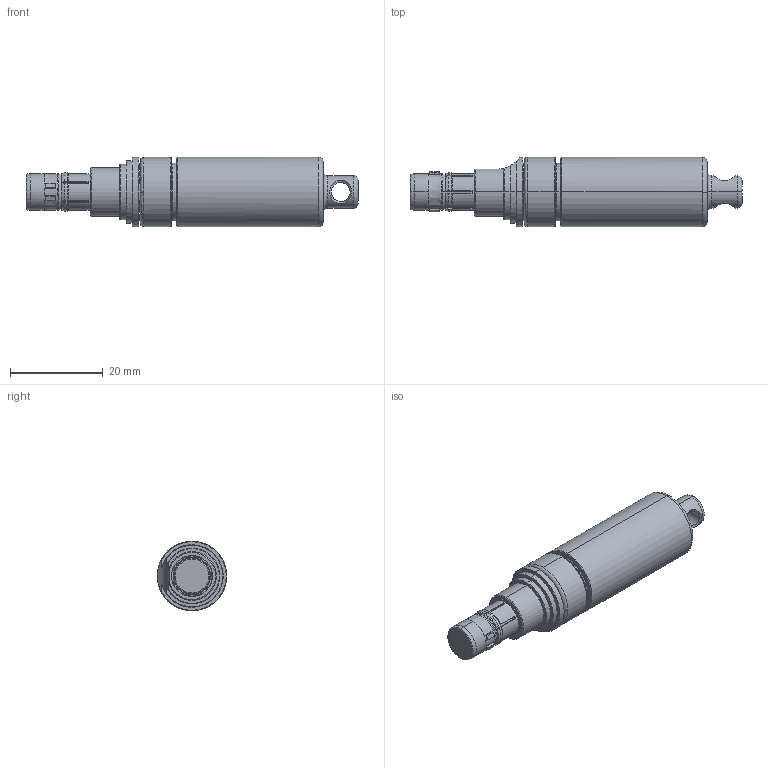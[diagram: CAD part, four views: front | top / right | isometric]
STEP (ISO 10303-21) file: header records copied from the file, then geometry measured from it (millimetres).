
FILE_DESCRIPTION (( 'STEP AP214' ), '1' );
FILE_NAME ('SW3DPS-Fischer_FD_USB2-004_UP01L08-DEFAULT.STEP', '2011-11-09T15:53:52', ( 'Solidworks' ), ( 'Solidworks' ), 'SwSTEP 2.0', 'SolidWorks 2012', '' );
FILE_SCHEMA (( 'AUTOMOTIVE_DESIGN' ));
Length unit declared in the file: millimetre
Products named in the file (1): SW3DPS-Fischer_FD_USB2-004_UP01L08-DEFAULT
Bounding box: 71.7 x 15 x 15 mm (x, y, z)
Surface area: 7722.5 mm2 (no closed solid volume)
Topology: 0 solids, 3 shells, 315 faces, 828 edges, 534 vertices
Faces by surface type: cylinder 124, plane 82, cone 72, bspline 35, torus 2
Entity records: 11660 total; most frequent: CARTESIAN_POINT 4091, ORIENTED_EDGE 1637, DIRECTION 1546, EDGE_CURVE 823, AXIS2_PLACEMENT_3D 637, VERTEX_POINT 532, CIRCLE 356, EDGE_LOOP 343
